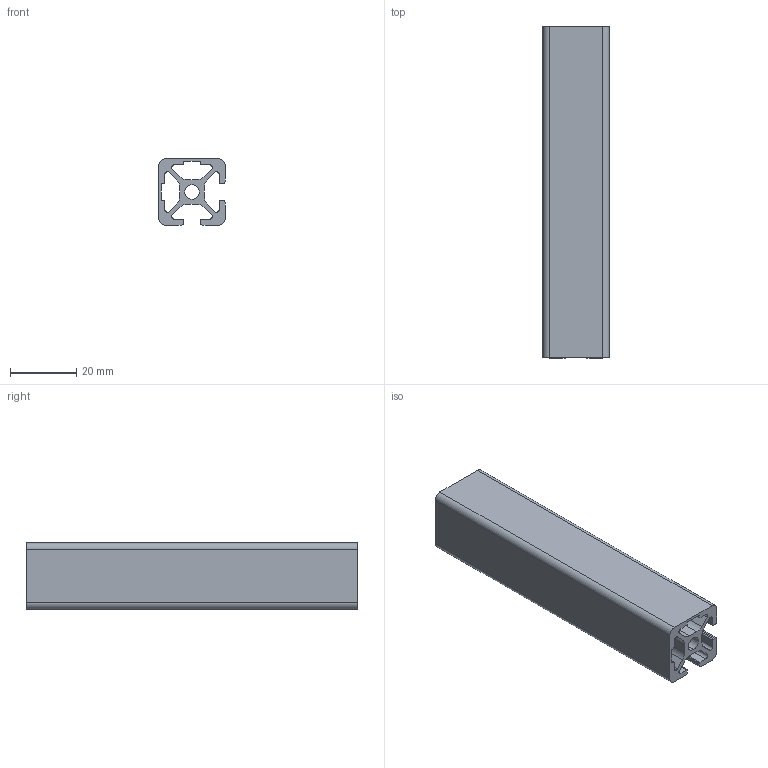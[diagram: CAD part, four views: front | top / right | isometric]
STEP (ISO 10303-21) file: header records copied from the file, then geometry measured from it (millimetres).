
FILE_DESCRIPTION (( 'STEP AP203' ), '1' );
FILE_NAME ('0105P2020-2N90.STEP', '2024-02-27T13:26:12', ( 'Windows-Benutzer' ), ( '' ), 'SwSTEP 2.0', 'SolidWorks 2023', '' );
FILE_SCHEMA (( 'CONFIG_CONTROL_DESIGN' ));
Length unit declared in the file: millimetre
Products named in the file (1): 0105P2020-2N90
Bounding box: 20 x 100 x 20 mm (x, y, z)
Volume: 17835.1 mm3; surface area: 19663.9 mm2
Topology: 1 solids, 1 shells, 78 faces, 228 edges, 152 vertices
Faces by surface type: cylinder 40, plane 38
Entity records: 2701 total; most frequent: DIRECTION 466, CARTESIAN_POINT 459, ORIENTED_EDGE 456, EDGE_CURVE 228, AXIS2_PLACEMENT_3D 159, VERTEX_POINT 152, LINE 148, VECTOR 148
